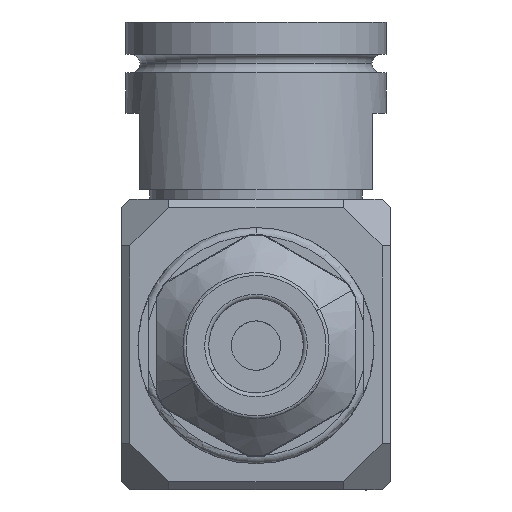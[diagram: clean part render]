
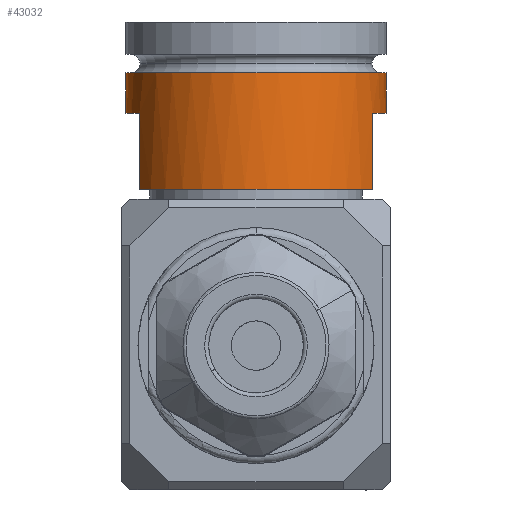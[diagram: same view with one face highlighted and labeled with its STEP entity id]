
A CAD part, front view. The second image highlights one B-rep face of the part: STEP entity #43032.
In plain terms, the highlighted cylindrical face has radius 16.294 mm (diameter 32.588 mm), a partial arc.
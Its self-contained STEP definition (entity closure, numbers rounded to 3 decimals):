
#955 = EDGE_CURVE ( 'NONE', #19255, #6029, #30053, .T. ) ;
#1177 = EDGE_CURVE ( 'NONE', #52546, #6029, #53413, .T. ) ;
#1913 = EDGE_LOOP ( 'NONE', ( #19994, #45964, #27943, #4251, #20189, #40735, #41533, #13930 ) ) ;
#2011 = DIRECTION ( 'NONE',  ( -1., 0., 0. ) ) ;
#2313 = AXIS2_PLACEMENT_3D ( 'NONE', #49943, #53869, #59356 ) ;
#2668 = DIRECTION ( 'NONE',  ( 0., 0., -1. ) ) ;
#4158 = EDGE_CURVE ( 'NONE', #33373, #56519, #21839, .T. ) ;
#4251 = ORIENTED_EDGE ( 'NONE', *, *, #1177, .T. ) ;
#5461 = VERTEX_POINT ( 'NONE', #28944 ) ;
#6029 = VERTEX_POINT ( 'NONE', #44041 ) ;
#9442 = VERTEX_POINT ( 'NONE', #24965 ) ;
#9780 = AXIS2_PLACEMENT_3D ( 'NONE', #54597, #50357, #34763 ) ;
#9927 = CARTESIAN_POINT ( 'NONE',  ( -14.605, -7.224, -2.972 ) ) ;
#11040 = EDGE_CURVE ( 'NONE', #9442, #43313, #31624, .T. ) ;
#11046 = FACE_OUTER_BOUND ( 'NONE', #1913, .T. ) ;
#12526 = VECTOR ( 'NONE', #20877, 1000. ) ;
#13930 = ORIENTED_EDGE ( 'NONE', *, *, #4158, .F. ) ;
#15245 = CIRCLE ( 'NONE', #29768, 16.294 ) ;
#15526 = AXIS2_PLACEMENT_3D ( 'NONE', #19981, #34896, #30661 ) ;
#16103 = CARTESIAN_POINT ( 'NONE',  ( 0., 0., 2.108 ) ) ;
#16324 = CARTESIAN_POINT ( 'NONE',  ( 16.294, 0., 8.458 ) ) ;
#17656 = CARTESIAN_POINT ( 'NONE',  ( -14.605, -7.224, -2.972 ) ) ;
#17896 = AXIS2_PLACEMENT_3D ( 'NONE', #26972, #2668, #2011 ) ;
#19255 = VERTEX_POINT ( 'NONE', #34299 ) ;
#19981 = CARTESIAN_POINT ( 'NONE',  ( 0., 0., -12.497 ) ) ;
#19994 = ORIENTED_EDGE ( 'NONE', *, *, #25437, .T. ) ;
#20189 = ORIENTED_EDGE ( 'NONE', *, *, #955, .F. ) ;
#20877 = DIRECTION ( 'NONE',  ( 0., 0., -1. ) ) ;
#21839 = LINE ( 'NONE', #16324, #12526 ) ;
#23912 = EDGE_CURVE ( 'NONE', #5461, #19255, #36103, .T. ) ;
#24965 = CARTESIAN_POINT ( 'NONE',  ( -16.294, 0., 2.108 ) ) ;
#25437 = EDGE_CURVE ( 'NONE', #33373, #9442, #15245, .T. ) ;
#26395 = DIRECTION ( 'NONE',  ( 0., 0., -1. ) ) ;
#26972 = CARTESIAN_POINT ( 'NONE',  ( 0., 0., -2.972 ) ) ;
#27943 = ORIENTED_EDGE ( 'NONE', *, *, #59797, .F. ) ;
#28944 = CARTESIAN_POINT ( 'NONE',  ( 14.605, -7.224, -2.972 ) ) ;
#29768 = AXIS2_PLACEMENT_3D ( 'NONE', #16103, #30097, #45056 ) ;
#30053 = CIRCLE ( 'NONE', #15526, 16.294 ) ;
#30097 = DIRECTION ( 'NONE',  ( 0., 0., -1. ) ) ;
#30136 = CARTESIAN_POINT ( 'NONE',  ( -16.294, 0., -2.972 ) ) ;
#30617 = CARTESIAN_POINT ( 'NONE',  ( 14.605, -7.224, -2.972 ) ) ;
#30661 = DIRECTION ( 'NONE',  ( 1., 0., 0. ) ) ;
#31269 = CIRCLE ( 'NONE', #2313, 16.294 ) ;
#31624 = LINE ( 'NONE', #62153, #63441 ) ;
#33373 = VERTEX_POINT ( 'NONE', #56570 ) ;
#34299 = CARTESIAN_POINT ( 'NONE',  ( 14.605, -7.224, -12.497 ) ) ;
#34452 = CYLINDRICAL_SURFACE ( 'NONE', #9780, 16.294 ) ;
#34763 = DIRECTION ( 'NONE',  ( 1., 0., 0. ) ) ;
#34896 = DIRECTION ( 'NONE',  ( 0., 0., -1. ) ) ;
#36103 = LINE ( 'NONE', #30617, #54750 ) ;
#38124 = EDGE_CURVE ( 'NONE', #56519, #5461, #31269, .T. ) ;
#40735 = ORIENTED_EDGE ( 'NONE', *, *, #23912, .F. ) ;
#41533 = ORIENTED_EDGE ( 'NONE', *, *, #38124, .F. ) ;
#43032 = ADVANCED_FACE ( 'NONE', ( #11046 ), #34452, .T. ) ;
#43313 = VERTEX_POINT ( 'NONE', #30136 ) ;
#44041 = CARTESIAN_POINT ( 'NONE',  ( -14.605, -7.224, -12.497 ) ) ;
#45056 = DIRECTION ( 'NONE',  ( 1., 0., 0. ) ) ;
#45964 = ORIENTED_EDGE ( 'NONE', *, *, #11040, .T. ) ;
#48225 = DIRECTION ( 'NONE',  ( 0., 0., -1. ) ) ;
#49782 = VECTOR ( 'NONE', #48225, 1000. ) ;
#49943 = CARTESIAN_POINT ( 'NONE',  ( 0., 0., -2.972 ) ) ;
#50357 = DIRECTION ( 'NONE',  ( 0., 0., -1. ) ) ;
#51447 = DIRECTION ( 'NONE',  ( 0., 0., -1. ) ) ;
#52546 = VERTEX_POINT ( 'NONE', #9927 ) ;
#53413 = LINE ( 'NONE', #17656, #49782 ) ;
#53869 = DIRECTION ( 'NONE',  ( 0., 0., -1. ) ) ;
#54597 = CARTESIAN_POINT ( 'NONE',  ( 0., 0., 8.458 ) ) ;
#54750 = VECTOR ( 'NONE', #26395, 1000. ) ;
#56519 = VERTEX_POINT ( 'NONE', #59965 ) ;
#56570 = CARTESIAN_POINT ( 'NONE',  ( 16.294, 0., 2.108 ) ) ;
#59356 = DIRECTION ( 'NONE',  ( 1., 0., 0. ) ) ;
#59398 = CIRCLE ( 'NONE', #17896, 16.294 ) ;
#59797 = EDGE_CURVE ( 'NONE', #52546, #43313, #59398, .T. ) ;
#59965 = CARTESIAN_POINT ( 'NONE',  ( 16.294, 0., -2.972 ) ) ;
#62153 = CARTESIAN_POINT ( 'NONE',  ( -16.294, 0., 8.458 ) ) ;
#63441 = VECTOR ( 'NONE', #51447, 1000. ) ;
